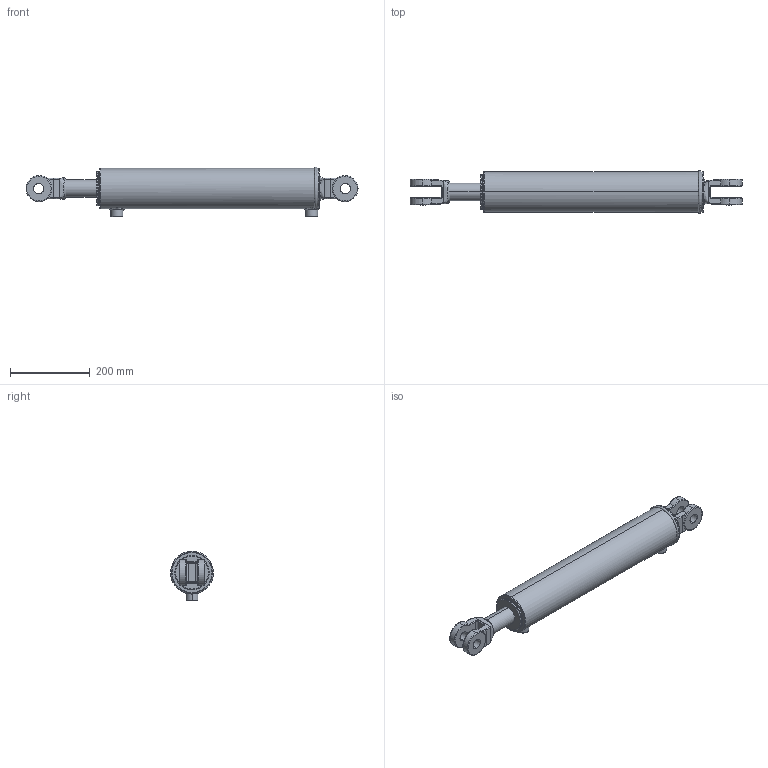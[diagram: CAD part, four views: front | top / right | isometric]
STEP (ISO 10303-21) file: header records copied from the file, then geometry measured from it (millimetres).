
FILE_DESCRIPTION (( 'STEP AP203' ), '1' );
FILE_NAME ('CL-CL350175x457 (18).STEP', '2014-11-22T16:43:28', ( '' ), ( '' ), 'SwSTEP 2.0', 'SolidWorks 2014', '' );
FILE_SCHEMA (( 'CONFIG_CONTROL_DESIGN' ));
Length unit declared in the file: millimetre
Products named in the file (4): 3 in ext circlip; SPARE 6_18x1.75; CL-CL350175x457 (18); CL-CL300150x  body_3.5x18
Assembly tree (3 placements, depth 2):
  CL-CL350175x457 (18)
    CL-CL300150x  body_3.5x18
    3 in ext circlip
    SPARE 6_18x1.75
Bounding box: 831.39 x 107.33 x 124.5 mm (x, y, z)
Volume: 4987529.3 mm3; surface area: 411681.8 mm2
Topology: 3 solids, 3 shells, 211 faces, 518 edges, 319 vertices
Faces by surface type: cylinder 91, bspline 59, plane 38, torus 15, cone 8
Entity records: 11321 total; most frequent: CARTESIAN_POINT 6234, ORIENTED_EDGE 1028, DIRECTION 941, EDGE_CURVE 514, AXIS2_PLACEMENT_3D 393, VERTEX_POINT 319, CIRCLE 235, EDGE_LOOP 233
